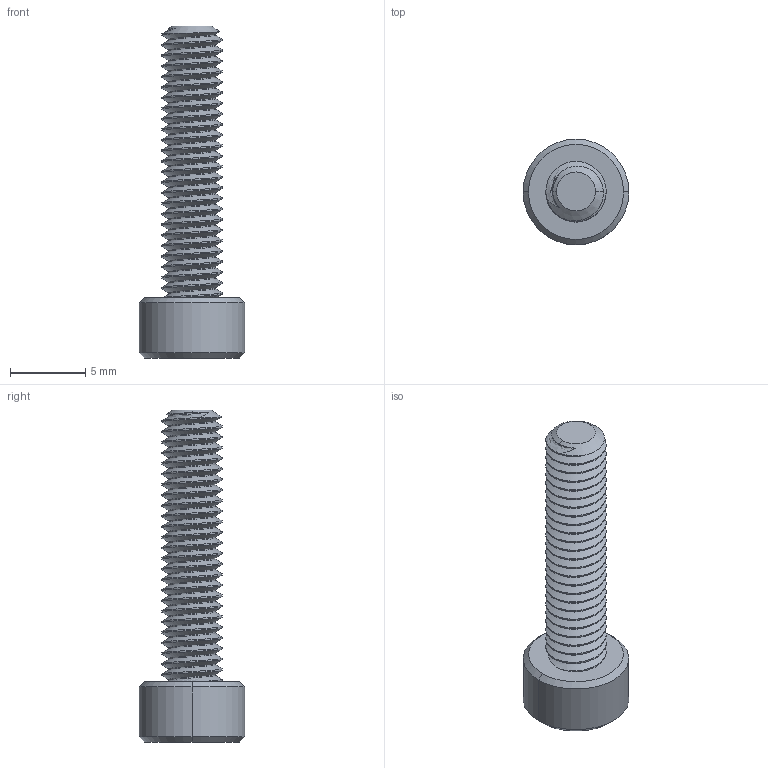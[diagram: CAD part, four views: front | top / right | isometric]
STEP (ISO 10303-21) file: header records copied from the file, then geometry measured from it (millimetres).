
FILE_DESCRIPTION (( 'STEP AP203' ), '1' );
FILE_NAME ('2800-0004-0018.STEP', '2017-04-04T18:10:17', ( '' ), ( '' ), 'SwSTEP 2.0', 'SolidWorks 2016', '' );
FILE_SCHEMA (( 'CONFIG_CONTROL_DESIGN' ));
Length unit declared in the file: millimetre
Products named in the file (1): 2800-0004-0018
Bounding box: 7 x 7 x 22 mm (x, y, z)
Volume: 311.8 mm3; surface area: 523.6 mm2
Topology: 1 solids, 1 shells, 130 faces, 361 edges, 235 vertices
Faces by surface type: cylinder 105, cone 13, plane 10, bspline 2
Entity records: 6599 total; most frequent: CARTESIAN_POINT 3825, ORIENTED_EDGE 722, DIRECTION 424, EDGE_CURVE 361, VERTEX_POINT 235, AXIS2_PLACEMENT_3D 151, EDGE_LOOP 132, FACE_OUTER_BOUND 130
